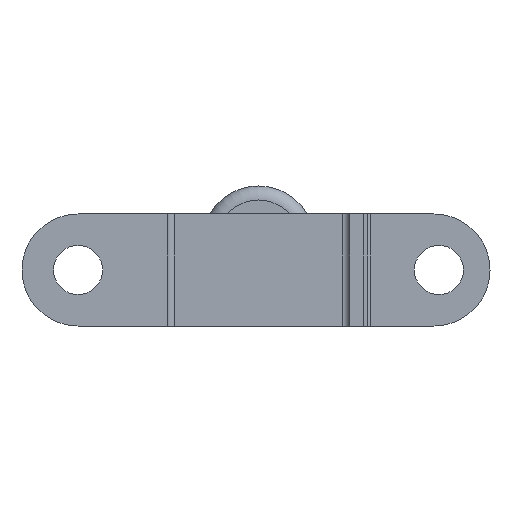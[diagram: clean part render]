
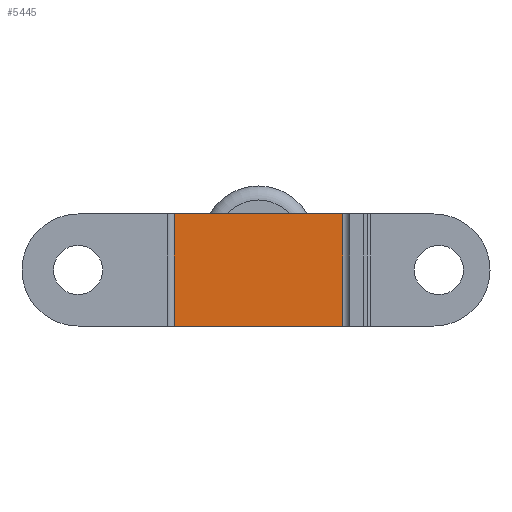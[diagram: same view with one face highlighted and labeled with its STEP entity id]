
A CAD part, front view. The second image highlights one B-rep face of the part: STEP entity #5445.
In plain terms, the highlighted planar face has unit normal (0, -1, 0).
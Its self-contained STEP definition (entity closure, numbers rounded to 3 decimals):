
#5384=CARTESIAN_POINT('Vertex',(-12.,-123.7,-8.)) ;
#5389=CARTESIAN_POINT('Line Origine',(-12.,-123.7,-7.)) ;
#5393=CARTESIAN_POINT('Vertex',(-12.,-123.7,8.)) ;
#5415=CARTESIAN_POINT('Axis2P3D Location',(12.,-123.7,8.)) ;
#5420=CARTESIAN_POINT('Line Origine',(12.,-123.7,0.)) ;
#5424=CARTESIAN_POINT('Vertex',(12.,-123.7,8.)) ;
#5426=CARTESIAN_POINT('Vertex',(12.,-123.7,-8.)) ;
#5429=CARTESIAN_POINT('Line Origine',(0.,-123.7,8.)) ;
#5434=CARTESIAN_POINT('Line Origine',(0.,-123.7,-8.)) ;
#5390=DIRECTION('Vector Direction',(0.,0.,1.)) ;
#5416=DIRECTION('Axis2P3D Direction',(-0.,-1.,-0.)) ;
#5417=DIRECTION('Axis2P3D XDirection',(-1.,0.,0.)) ;
#5421=DIRECTION('Vector Direction',(0.,0.,-1.)) ;
#5430=DIRECTION('Vector Direction',(-1.,0.,0.)) ;
#5435=DIRECTION('Vector Direction',(-1.,0.,0.)) ;
#5418=AXIS2_PLACEMENT_3D('Plane Axis2P3D',#5415,#5416,#5417) ;
#5440=ORIENTED_EDGE('',*,*,#5428,.F.) ;
#5441=ORIENTED_EDGE('',*,*,#5433,.T.) ;
#5442=ORIENTED_EDGE('',*,*,#5395,.T.) ;
#5443=ORIENTED_EDGE('',*,*,#5438,.F.) ;
#5391=VECTOR('Line Direction',#5390,1.) ;
#5422=VECTOR('Line Direction',#5421,1.) ;
#5431=VECTOR('Line Direction',#5430,1.) ;
#5436=VECTOR('Line Direction',#5435,1.) ;
#5445=ADVANCED_FACE('PartBody',(#5444),#5419,.T.) ;
#5395=EDGE_CURVE('',#5394,#5385,#5392,.F.) ;
#5428=EDGE_CURVE('',#5425,#5427,#5423,.T.) ;
#5433=EDGE_CURVE('',#5425,#5394,#5432,.T.) ;
#5438=EDGE_CURVE('',#5427,#5385,#5437,.T.) ;
#5439=EDGE_LOOP('',(#5440,#5441,#5442,#5443)) ;
#5444=FACE_OUTER_BOUND('',#5439,.T.) ;
#5392=LINE('Line',#5389,#5391) ;
#5423=LINE('Line',#5420,#5422) ;
#5432=LINE('Line',#5429,#5431) ;
#5437=LINE('Line',#5434,#5436) ;
#5419=PLANE('',#5418) ;
#5385=VERTEX_POINT('',#5384) ;
#5394=VERTEX_POINT('',#5393) ;
#5425=VERTEX_POINT('',#5424) ;
#5427=VERTEX_POINT('',#5426) ;
